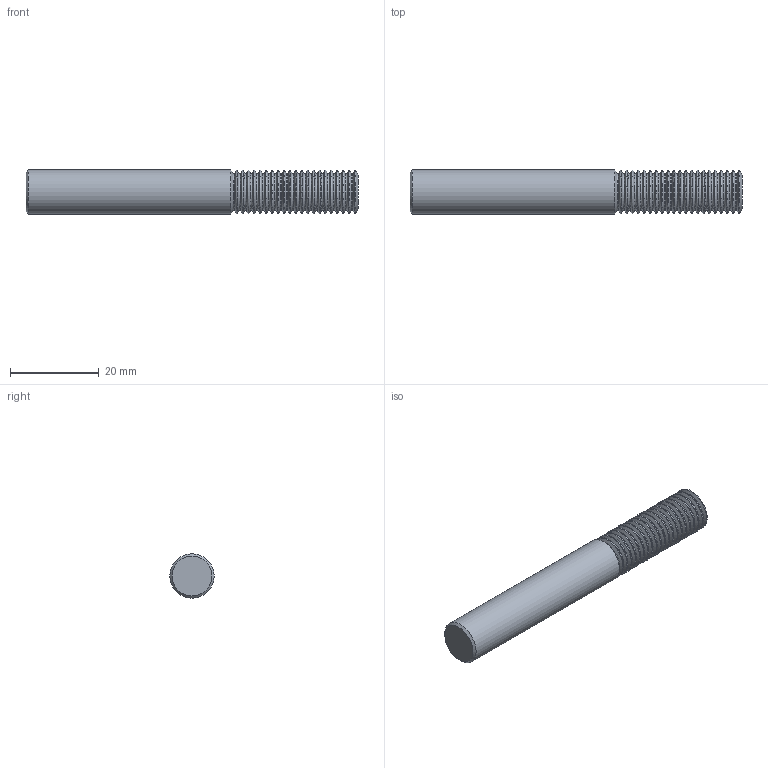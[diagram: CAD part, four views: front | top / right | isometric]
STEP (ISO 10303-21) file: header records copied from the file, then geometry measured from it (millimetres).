
FILE_DESCRIPTION(/* description */ (''),/* implementation_level */ '2;1');
FILE_NAME(/* name */ '00031651-TDM',/* time_stamp */ '2024-02-19T13:17:10+01:00',/* author */ (''),/* organization */ (''),/* preprocessor_version */ 'ST-DEVELOPER v16.5',/* originating_system */ 'HiCAD 2017 2201.0 Build 268',/* authorisation */ '');
FILE_SCHEMA (('AUTOMOTIVE_DESIGN { 1 0 10303 214 1 1 1 1 }'));
Length unit declared in the file: millimetre
Products named in the file (3): Root; ROTATIONSTEIL_2
Assembly tree (2 placements, depth 3):
  Root
    ROTATIONSTEIL_2
      ROTATIONSTEIL_2
Bounding box: 75 x 10 x 10 mm (x, y, z)
Volume: 5446.4 mm3; surface area: 3079.6 mm2
Topology: 2 solids, 2 shells, 92 faces, 180 edges, 92 vertices
Faces by surface type: cone 44, torus 43, plane 4, cylinder 1
Full cylindrical faces by diameter (mm): 10 x1
Entity records: 2784 total; most frequent: DIRECTION 372, CARTESIAN_POINT 276, AXIS2_PLACEMENT_3D 186, PRESENTATION_STYLE_ASSIGNMENT 182, COLOUR_RGB 182, DRAUGHTING_PRE_DEFINED_CURVE_FONT 180, CURVE_STYLE 180, OVER_RIDING_STYLED_ITEM 180
